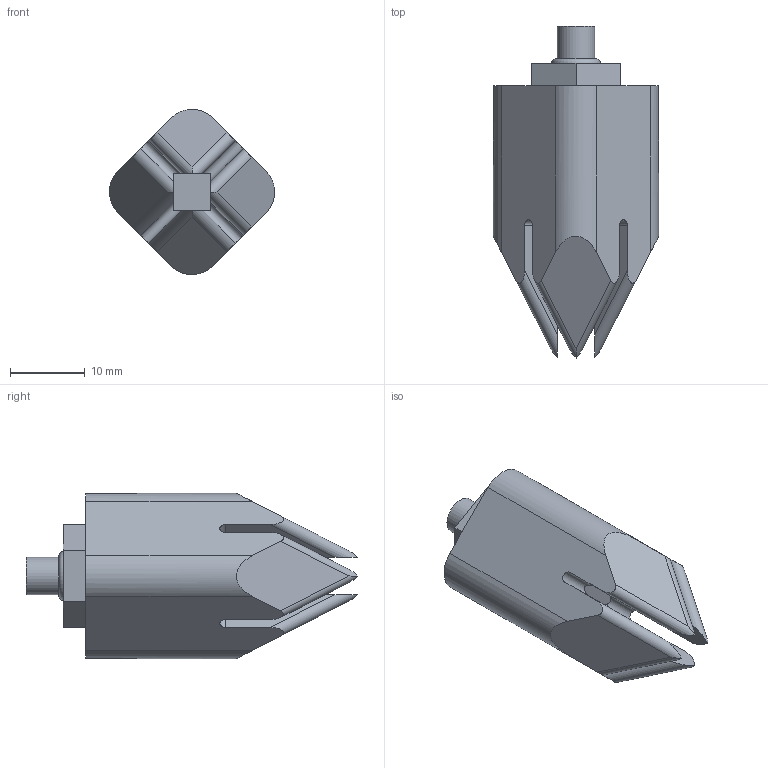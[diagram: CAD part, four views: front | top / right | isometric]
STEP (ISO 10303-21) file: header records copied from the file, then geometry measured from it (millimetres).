
FILE_DESCRIPTION( ( 'STEP AP214' ), '1' );
FILE_NAME( 'D:/Backup/桌面/BMC-4B18[P].stp', '2024-10-10T06:04:54', ( 'License CC BY-ND 4.0' ), ( 'CADENAS' ), ' ', 'PARTsolutions', ' ' );
FILE_SCHEMA( ( 'AUTOMOTIVE_DESIGN { 1 0 10303 214 1 1 1 1 }' ) );
Length unit declared in the file: millimetre
Products named in the file (3): BMC-4B18[P]; _PN-066; _B-4B18[P]
Assembly tree (2 placements, depth 2):
  BMC-4B18[P]
    _PN-066
    _B-4B18[P]
Bounding box: 22.15 x 44.51 x 22.15 mm (x, y, z)
Volume: 8516.3 mm3; surface area: 4364.2 mm2
Topology: 2 solids, 2 shells, 58 faces, 144 edges, 95 vertices
Faces by surface type: plane 35, cylinder 22, torus 1
Full cylindrical faces by diameter (mm): 3 x1, 5 x1, 8 x2, 11 x2
Entity records: 2206 total; most frequent: DIRECTION 310, CARTESIAN_POINT 289, ORIENTED_EDGE 270, EDGE_CURVE 135, AXIS2_PLACEMENT_3D 114, VERTEX_POINT 93, LINE 82, VECTOR 82
